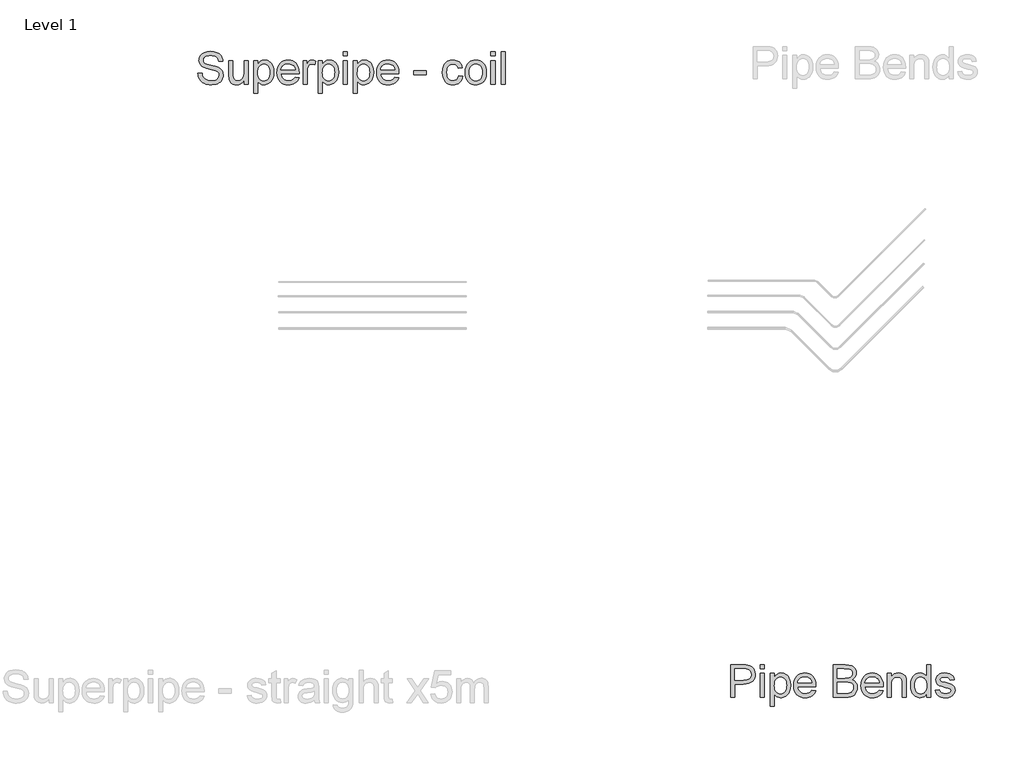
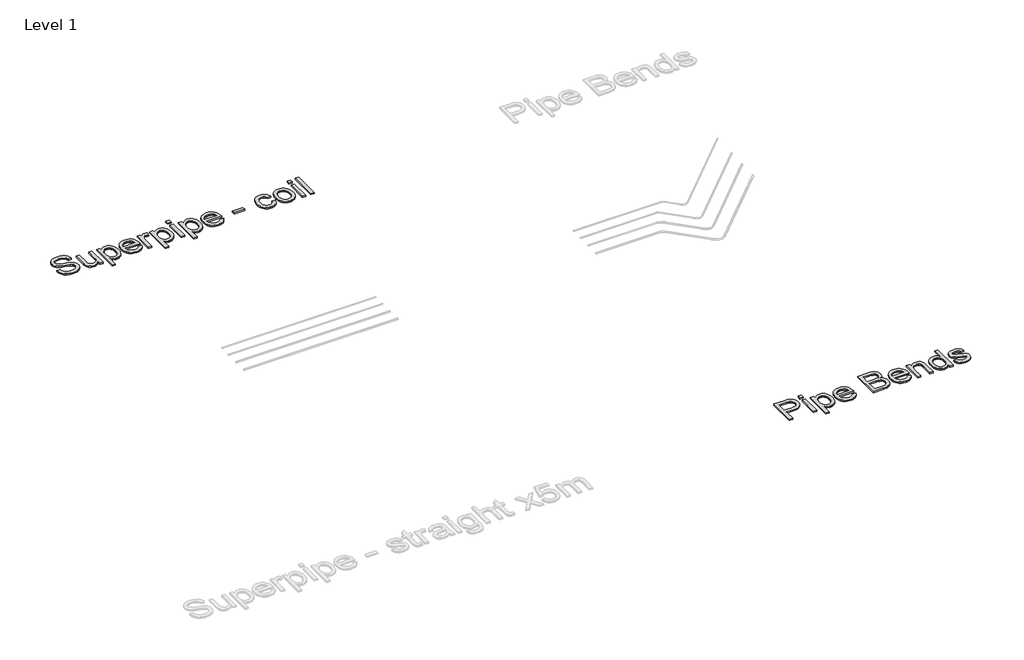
# One storey, part 9 of 57: 2 proxies.
"""IFC4 building model written with IfcOpenShell, lengths in millimetres."""

from ifc_helpers import new_model, si_unit, frame, origin, place, context, project, spatial, polyline, outline, extrude, element, save

model = new_model("IFC4")

# Units and contexts
model_context = context("Model", 3, world=origin())
ifc_project = project(units=[si_unit("LENGTHUNIT", "METRE", prefix="MILLI")], contexts=[model_context])

# Site, building, storey
site = spatial("IfcSite", under=ifc_project)
building = spatial("IfcBuilding", under=site)
storey = spatial("IfcBuildingStorey", under=building, Name="Level 1", Elevation=27.3876384)

# Proxies
placement = place(None, origin())
element("IfcBuildingElementProxy", 1, Name="600mm Arial", ObjectType="600mm Arial", at=placement, inside=storey, context=model_context, shape_type="SweptSolid", body=[
    extrude(outline(polyline([(-5305.3161942, 3428.1412239), (-5305.3161942, 4030.8790848), (-5081.9382467, 4030.8790848), (-5029.9197326, 4029.444345), (-4991.8807343, 4025.1401257), (-4951.7264145, 4014.4163655), (-4918.6722172, 3996.9603648), (-4892.0559549, 3971.9811774), (-4871.2154399, 3938.6878568), (-4857.7509588, 3899.4164538), (-4853.2627985, 3856.5030191), (-4856.2932264, 3819.5032874), (-4865.3845102, 3785.4650058), (-4880.5366499, 3754.3881743), (-4901.7496455, 3726.2727928), (-4930.8721039, 3702.9674684), (-4969.7526323, 3686.3208081), (-5018.3912306, 3676.3328119), (-5076.7878988, 3673.0034799), (-5229.9739616, 3673.0034799), (-5229.9739616, 3428.1412239), (-5305.3161942, 3428.1412239)]), holes=[polyline([(-5229.9739616, 3748.3457125), (-5072.3733148, 3748.3457125), (-5036.1369383, 3750.0747579), (-5005.5659445, 3755.261894), (-4980.6603334, 3763.9071209), (-4961.4201051, 3776.0104385), (-4947.0635102, 3791.2499502), (-4936.8087996, 3809.3037591), (-4930.6559732, 3830.1718653), (-4928.6050311, 3853.8542687), (-4933.4426794, 3887.6994123), (-4947.9556241, 3916.2470551), (-4970.3412435, 3937.7313636), (-4998.7969158, 3950.3865042), (-5027.8595934, 3954.2492652), (-5074.1391484, 3955.5368522), (-5229.9739616, 3955.5368522), (-5229.9739616, 3748.3457125)])]), frame((0.0, 0.0, 27.3876384), z_axis=(0.0, 0.0, 1.0), x_axis=(1.0, 0.0, 0.0)), (0.0, 0.0, 1.0), 30.0),
    extrude(outline(polyline([(-4759.0850077, 3428.1412239), (-4759.0850077, 3870.7768405), (-4683.7427751, 3870.7768405), (-4683.7427751, 3428.1412239), (-4759.0850077, 3428.1412239)])), frame((0.0, 0.0, 27.3876384), z_axis=(0.0, 0.0, 1.0), x_axis=(1.0, 0.0, 0.0)), (0.0, 0.0, 1.0), 30.0),
    extrude(outline(polyline([(-4759.0850077, 3955.5368522), (-4759.0850077, 4030.8790848), (-4683.7427751, 4030.8790848), (-4683.7427751, 3955.5368522), (-4759.0850077, 3955.5368522)])), frame((0.0, 0.0, 27.3876384), z_axis=(0.0, 0.0, 1.0), x_axis=(1.0, 0.0, 0.0)), (0.0, 0.0, 1.0), 30.0),
    extrude(outline(polyline([(-4570.7294262, 3258.6212005), (-4570.7294262, 3870.7768405), (-4495.3871936, 3870.7768405), (-4495.3871936, 3796.9061358), (-4470.8126763, 3833.3448475), (-4443.2951031, 3859.3724986), (-4411.2157931, 3874.9890893), (-4372.9560656, 3880.1946196), (-4346.6800941, 3878.3736037), (-4322.0044093, 3872.9105561), (-4298.9290111, 3863.8054767), (-4277.4538997, 3851.0583655), (-4258.0481244, 3835.0003164), (-4241.1807349, 3815.9624232), (-4226.8517312, 3793.9446858), (-4215.0611133, 3768.9471042), (-4199.2789757, 3713.4337111), (-4194.0182631, 3652.8435465), (-4199.9595574, 3588.4090151), (-4207.3861751, 3558.7439307), (-4217.78344, 3530.7803005), (-4231.0087978, 3505.2492901), (-4246.9196941, 3482.8820648), (-4265.5161289, 3463.6786246), (-4286.7981023, 3447.6389696), (-4309.7217492, 3434.9884275), (-4333.2432042, 3425.952326), (-4357.3624675, 3420.5306651), (-4382.0795391, 3418.7234448), (-4416.7156289, 3423.561093), (-4447.6361106, 3438.0740378), (-4474.1052202, 3459.9814106), (-4495.3871936, 3487.0023431), (-4495.3871936, 3258.6212005), (-4570.7294262, 3258.6212005)]), holes=[polyline([(-4495.3871936, 3645.927365), (-4493.350047, 3609.6174121), (-4487.2386074, 3578.3842307), (-4477.0528747, 3552.2278209), (-4462.7928488, 3531.1481825), (-4445.6265552, 3514.9245865), (-4426.7220192, 3503.3363037), (-4406.0792407, 3496.383334), (-4383.6982199, 3494.0656774), (-4360.9953022, 3496.4661074), (-4339.9754447, 3503.6673975), (-4320.6386474, 3515.6695476), (-4302.9849101, 3532.4725577), (-4288.2742288, 3554.3155512), (-4277.7665993, 3581.4376513), (-4271.4620217, 3613.838858), (-4269.3604958, 3651.5191714), (-4271.4114379, 3687.5164246), (-4277.5642643, 3718.6944237), (-4287.8189749, 3745.0531686), (-4302.1755697, 3766.5926594), (-4319.3832501, 3783.3312902), (-4338.1912171, 3795.2874551), (-4358.5994707, 3802.461154), (-4380.6080111, 3804.8523869), (-4402.5475736, 3802.3094027), (-4423.190352, 3794.6804498), (-4442.5363465, 3781.9655283), (-4460.5855569, 3764.1646383), (-4475.8112729, 3741.5169029), (-4486.6867844, 3714.2614456), (-4493.2120913, 3682.3982663), (-4495.3871936, 3645.927365)])]), frame((0.0, 0.0, 27.3876384), z_axis=(0.0, 0.0, 1.0), x_axis=(1.0, 0.0, 0.0)), (0.0, 0.0, 1.0), 30.0),
    extrude(outline(polyline([(-3799.3544587, 3559.990131), (-3725.4837541, 3550.5723519), (-3736.809921, 3520.9854424), (-3752.1000164, 3494.911806), (-3771.3540404, 3472.3514427), (-3794.5719928, 3453.3043524), (-3821.5147504, 3438.1752053), (-3851.9431899, 3427.3686717), (-3885.8573114, 3420.8847515), (-3923.2571147, 3418.7234448), (-3970.0057192, 3422.4528485), (-4011.6591581, 3433.6410597), (-4048.2174314, 3452.2880783), (-4079.680539, 3478.3939044), (-4104.9816233, 3511.231971), (-4123.0538263, 3550.0757112), (-4133.8971481, 3594.9251249), (-4137.5115887, 3645.7802122), (-4133.8603599, 3698.3597464), (-4122.9066735, 3744.7036807), (-4104.6505295, 3784.8120153), (-4079.0919279, 3818.68475), (-4047.7115937, 3845.5953179), (-4011.9902519, 3864.8171522), (-3971.9279027, 3876.3502527), (-3927.5245458, 3880.1946196), (-3884.5513303, 3876.3594498), (-3845.689196, 3864.8539404), (-3810.938143, 3845.6780914), (-3780.2981714, 3818.8319028), (-3755.2867942, 3785.0327445), (-3737.4215248, 3744.9979863), (-3726.7023632, 3698.7276284), (-3723.1293093, 3646.2216706), (-3723.5707677, 3625.9145845), (-4062.1693561, 3625.9145845), (-4057.8053559, 3595.8494284), (-4049.1279393, 3569.5182746), (-4036.1371064, 3546.9211231), (-4018.832857, 3528.0579738), (-3998.1716845, 3513.1863441), (-3975.1100819, 3502.5637515), (-3949.6480493, 3496.1901959), (-3921.7855867, 3494.0656774), (-3881.6864492, 3498.0020148), (-3847.9148821, 3509.8110268), (-3820.4708852, 3530.2284775), (-3799.3544587, 3559.990131)]), holes=[polyline([(-4062.1693561, 3701.2568171), (-3798.4715419, 3701.2568171), (-3808.6618732, 3741.061649), (-3817.4266617, 3756.7150279), (-3828.6378655, 3769.5357154), (-3849.184075, 3784.9867592), (-3872.5629758, 3796.0232191), (-3898.7745679, 3802.645095), (-3927.8188514, 3804.8523869), (-3954.3109536, 3803.0911519), (-3978.6049609, 3797.8074467), (-4000.7008732, 3789.0012715), (-4020.5986906, 3776.6726261), (-4037.2959347, 3761.3917277), (-4049.7901269, 3743.7287934), (-4058.0812674, 3723.6838232), (-4062.1693561, 3701.2568171)])]), frame((0.0, 0.0, 27.3876384), z_axis=(0.0, 0.0, 1.0), x_axis=(1.0, 0.0, 0.0)), (0.0, 0.0, 1.0), 30.0),
    extrude(outline(polyline([(-3402.9248207, 3428.1412239), (-3402.9248207, 4030.8790848), (-3172.9249973, 4030.8790848), (-3109.6676883, 4026.4461067), (-3060.2795304, 4013.1471726), (-3040.2023705, 4003.0901986), (-3022.4244731, 3990.6511886), (-3006.9458382, 3975.8301427), (-2993.7664657, 3958.6270609), (-2975.7218538, 3920.9559446), (-2969.7069832, 3881.5189947), (-2974.7653606, 3845.2274359), (-2989.9404929, 3811.1063809), (-3015.3427447, 3781.252757), (-3051.0824805, 3757.7634916), (-3028.3427747, 3748.069801), (-3008.389775, 3735.4698427), (-2991.2234814, 3719.9636166), (-2976.8438939, 3701.5511227), (-2965.4809388, 3680.7933811), (-2957.3645423, 3658.2514119), (-2952.4947043, 3633.9252149), (-2950.871425, 3607.8147903), (-2955.3044031, 3565.7842724), (-2968.6033372, 3526.807175), (-2988.4505709, 3493.6610072), (-3012.5284474, 3469.1232781), (-3042.0141894, 3451.3545778), (-3078.085019, 3438.5154961), (-3121.9181587, 3430.7347919), (-3174.6908309, 3428.1412239), (-3402.9248207, 3428.1412239)]), holes=[polyline([(-3327.5825881, 3503.4834565), (-3173.0721501, 3503.4834565), (-3117.1540869, 3506.4265125), (-3091.2000121, 3512.9564179), (-3069.8444623, 3522.8340494), (-3052.4804321, 3536.9791122), (-3038.5009163, 3556.311311), (-3029.2854723, 3579.9661233), (-3026.2136577, 3607.0790263), (-3029.8189012, 3638.5697251), (-3040.6346319, 3665.64584), (-3059.5253723, 3686.8174488), (-3087.3556453, 3700.5946295), (-3126.774201, 3708.1546045), (-3180.42979, 3710.6745962), (-3327.5825881, 3710.6745962), (-3327.5825881, 3503.4834565)]), polyline([(-3327.5825881, 3786.0168288), (-3189.9947219, 3786.0168288), (-3141.8757569, 3787.6355096), (-3109.6492942, 3792.4915519), (-3081.5247156, 3803.6567705), (-3061.3096, 3820.3770071), (-3049.1143119, 3842.3947446), (-3045.0492158, 3869.4524653), (-3048.8384004, 3895.7192398), (-3060.205954, 3918.6014999), (-3078.636842, 3936.4621707), (-3103.6160294, 3947.6641775), (-3141.9493333, 3953.5686835), (-3200.4425706, 3955.5368522), (-3327.5825881, 3955.5368522), (-3327.5825881, 3786.0168288)])]), frame((0.0, 0.0, 27.3876384), z_axis=(0.0, 0.0, 1.0), x_axis=(1.0, 0.0, 0.0)), (0.0, 0.0, 1.0), 30.0),
    extrude(outline(polyline([(-2546.7898415, 3559.990131), (-2472.9191369, 3550.5723519), (-2484.2453038, 3520.9854424), (-2499.5353993, 3494.911806), (-2518.7894232, 3472.3514427), (-2542.0073756, 3453.3043524), (-2568.9501332, 3438.1752053), (-2599.3785728, 3427.3686717), (-2633.2926942, 3420.8847515), (-2670.6924975, 3418.7234448), (-2717.4411021, 3422.4528485), (-2759.094541, 3433.6410597), (-2795.6528142, 3452.2880783), (-2827.1159219, 3478.3939044), (-2852.4170061, 3511.231971), (-2870.4892091, 3550.0757112), (-2881.3325309, 3594.9251249), (-2884.9469715, 3645.7802122), (-2881.2957427, 3698.3597464), (-2870.3420563, 3744.7036807), (-2852.0859123, 3784.8120153), (-2826.5273107, 3818.68475), (-2795.1469765, 3845.5953179), (-2759.4256348, 3864.8171522), (-2719.3632855, 3876.3502527), (-2674.9599287, 3880.1946196), (-2631.9867131, 3876.3594498), (-2593.1245788, 3864.8539404), (-2558.3735259, 3845.6780914), (-2527.7335542, 3818.8319028), (-2502.722177, 3785.0327445), (-2484.8569077, 3744.9979863), (-2474.137746, 3698.7276284), (-2470.5646921, 3646.2216706), (-2471.0061505, 3625.9145845), (-2809.6047389, 3625.9145845), (-2805.2407387, 3595.8494284), (-2796.5633222, 3569.5182746), (-2783.5724892, 3546.9211231), (-2766.2682399, 3528.0579738), (-2745.6070673, 3513.1863441), (-2722.5454647, 3502.5637515), (-2697.0834321, 3496.1901959), (-2669.2209695, 3494.0656774), (-2629.1218321, 3498.0020148), (-2595.3502649, 3509.8110268), (-2567.9062681, 3530.2284775), (-2546.7898415, 3559.990131)]), holes=[polyline([(-2809.6047389, 3701.2568171), (-2545.9069248, 3701.2568171), (-2556.097256, 3741.061649), (-2564.8620446, 3756.7150279), (-2576.0732484, 3769.5357154), (-2596.6194578, 3784.9867592), (-2619.9983586, 3796.0232191), (-2646.2099507, 3802.645095), (-2675.2542343, 3804.8523869), (-2701.7463364, 3803.0911519), (-2726.0403437, 3797.8074467), (-2748.136256, 3789.0012715), (-2768.0340734, 3776.6726261), (-2784.7313175, 3761.3917277), (-2797.2255098, 3743.7287934), (-2805.5166502, 3723.6838232), (-2809.6047389, 3701.2568171)])]), frame((0.0, 0.0, 27.3876384), z_axis=(0.0, 0.0, 1.0), x_axis=(1.0, 0.0, 0.0)), (0.0, 0.0, 1.0), 30.0),
    extrude(outline(polyline([(-2395.2224595, 3428.1412239), (-2395.2224595, 3870.7768405), (-2319.8802269, 3870.7768405), (-2319.8802269, 3808.9726653), (-2293.705423, 3840.1322703), (-2262.2699065, 3862.389131), (-2225.5736775, 3875.7432474), (-2183.6167359, 3880.1946196), (-2146.4790485, 3876.6077701), (-2112.468358, 3865.8472217), (-2084.1046562, 3849.2557438), (-2063.9079347, 3828.1761054), (-2050.2043304, 3802.6634891), (-2041.3199802, 3772.773077), (-2037.3468546, 3699.9324419), (-2037.3468546, 3428.1412239), (-2112.6890872, 3428.1412239), (-2112.6890872, 3689.7788989), (-2114.859591, 3728.7376021), (-2121.3711023, 3756.4391164), (-2133.3824495, 3776.28635), (-2152.0524607, 3791.6822115), (-2175.9831845, 3801.5598431), (-2203.7766692, 3804.8523869), (-2226.6543308, 3803.0037799), (-2247.9041146, 3797.4579588), (-2267.5260205, 3788.2149237), (-2285.5200486, 3775.2746745), (-2300.5526266, 3757.1656833), (-2311.2901823, 3732.4164221), (-2317.7327158, 3701.0268909), (-2319.8802269, 3662.9970896), (-2319.8802269, 3428.1412239), (-2395.2224595, 3428.1412239)])), frame((0.0, 0.0, 27.3876384), z_axis=(0.0, 0.0, 1.0), x_axis=(1.0, 0.0, 0.0)), (0.0, 0.0, 1.0), 30.0),
    extrude(outline(polyline([(-1660.6356916, 3428.1412239), (-1660.6356916, 3499.2160254), (-1683.1776608, 3464.0005214), (-1710.4837019, 3438.8465899), (-1742.5538148, 3423.7542311), (-1779.3879996, 3418.7234448), (-1804.2568225, 3420.5444607), (-1828.0955758, 3426.0075083), (-1850.9042595, 3435.1125877), (-1872.6828736, 3447.8596988), (-1892.7508364, 3463.8671641), (-1910.4275663, 3482.7533061), (-1925.7130632, 3504.5181246), (-1938.6073271, 3529.1616198), (-1948.8436436, 3556.214742), (-1956.1552983, 3585.2084417), (-1962.004622, 3649.0175738), (-1956.6151508, 3712.0357596), (-1940.4467371, 3768.9471042), (-1928.3250254, 3794.3033707), (-1913.517775, 3816.5142462), (-1896.0249862, 3835.5797306), (-1875.8466587, 3851.4998239), (-1853.6955641, 3864.053797), (-1830.2844736, 3873.0209206), (-1805.6133873, 3878.4011948), (-1779.6823052, 3880.1946196), (-1742.8205293, 3875.0626657), (-1710.2261845, 3859.6668042), (-1682.5982467, 3836.0671742), (-1660.6356916, 3806.3239149), (-1660.6356916, 4030.8790848), (-1585.2934589, 4030.8790848), (-1585.2934589, 3428.1412239), (-1660.6356916, 3428.1412239)]), holes=[polyline([(-1886.6623894, 3649.3118794), (-1884.5378709, 3612.7765987), (-1878.1643153, 3581.1617398), (-1867.5417227, 3554.4673025), (-1852.670093, 3532.6932869), (-1834.9105897, 3515.7937078), (-1815.6243761, 3503.7225798), (-1794.8114523, 3496.479903), (-1772.4718181, 3494.0656774), (-1750.0264179, 3496.3695384), (-1729.3376542, 3503.2811214), (-1710.405527, 3514.8004264), (-1693.2300363, 3530.9274533), (-1678.9700105, 3551.790961), (-1668.7842778, 3577.519708), (-1662.6728381, 3608.1136944), (-1660.6356916, 3643.5729203), (-1662.7096263, 3682.4488501), (-1668.9314306, 3715.7881559), (-1679.3011043, 3743.5908377), (-1693.8186475, 3765.8568955), (-1711.3712172, 3782.917423), (-1730.8459703, 3795.1035141), (-1752.2429069, 3802.4151687), (-1775.5620269, 3804.8523869), (-1798.3431194, 3802.5117377), (-1819.1560433, 3795.4897902), (-1838.0007985, 3783.7865442), (-1854.877385, 3767.4019998), (-1868.7833244, 3745.9774721), (-1878.7161383, 3719.1542762), (-1884.6758266, 3686.9324119), (-1886.6623894, 3649.3118794)])]), frame((0.0, 0.0, 27.3876384), z_axis=(0.0, 0.0, 1.0), x_axis=(1.0, 0.0, 0.0)), (0.0, 0.0, 1.0), 30.0),
    extrude(outline(polyline([(-1500.5334473, 3559.990131), (-1425.1912146, 3569.40791), (-1420.638675, 3552.2278209), (-1413.3086262, 3537.1814473), (-1403.2010684, 3524.2687892), (-1390.3160015, 3513.4898468), (-1374.6166374, 3504.9917727), (-1356.0661878, 3498.9217198), (-1310.4120322, 3494.0656774), (-1265.3096995, 3498.5170496), (-1247.7801225, 3504.0812647), (-1233.5982716, 3511.871166), (-1214.8362898, 3531.2217589), (-1210.1457944, 3542.0558837), (-1208.5822959, 3553.6625606), (-1210.1549914, 3563.8344978), (-1214.873078, 3572.8660008), (-1233.7454244, 3587.5077042), (-1261.9619734, 3597.0726361), (-1311.2949489, 3608.9920127), (-1380.0520938, 3628.8760346), (-1424.7497563, 3645.8537886), (-1453.462946, 3664.3766471), (-1474.2666728, 3688.8959821), (-1486.9034193, 3717.8482951), (-1491.1156682, 3749.6700877), (-1487.7311538, 3778.861524), (-1477.5776108, 3805.8088801), (-1461.574744, 3829.4452983), (-1440.6422584, 3848.7039208), (-1419.8385316, 3860.8256325), (-1392.7440227, 3870.9975697), (-1361.4188708, 3877.8953571), (-1327.9232151, 3880.1946196), (-1278.8845452, 3876.4974055), (-1236.2470219, 3865.4057633), (-1201.96042, 3848.004945), (-1177.9745139, 3825.3802023), (-1162.0820117, 3795.8576722), (-1152.0756214, 3757.7634916), (-1227.417854, 3748.3457125), (-1236.9276036, 3772.0557071), (-1255.7447677, 3789.9163779), (-1284.0532872, 3801.1183847), (-1322.0371032, 3804.8523869), (-1365.3000258, 3801.2839316), (-1394.1419743, 3790.5785655), (-1410.3655702, 3775.1275217), (-1415.7734356, 3757.3220332), (-1413.5293554, 3745.7337503), (-1406.7971149, 3735.3962663), (-1395.2824084, 3726.1624282), (-1378.6909305, 3718.7680001), (-1313.7965465, 3702.7283451), (-1203.2112188, 3667.2645207), (-1174.0013883, 3650.3051608), (-1151.8548922, 3627.0918069), (-1137.8937705, 3597.5508827), (-1133.2400633, 3561.6088117), (-1138.7031109, 3524.4527302), (-1155.0922538, 3489.5039407), (-1181.7820925, 3459.503164), (-1218.1472278, 3437.191121), (-1262.072338, 3423.3403638), (-1311.4421017, 3418.7234448), (-1351.9918947, 3420.9491309), (-1387.4097337, 3427.6261891), (-1417.695619, 3438.7546194), (-1442.8495504, 3454.3344219), (-1463.3957598, 3474.2920202), (-1479.8584791, 3498.5538378), (-1492.2377083, 3527.1198747), (-1500.5334473, 3559.990131)])), frame((0.0, 0.0, 27.3876384), z_axis=(0.0, 0.0, 1.0), x_axis=(1.0, 0.0, 0.0)), (0.0, 0.0, 1.0), 30.0),
])
element("IfcBuildingElementProxy", 2, Name="600mm Arial", ObjectType="600mm Arial", at=placement, inside=storey, context=model_context, shape_type="SweptSolid", body=[
    extrude(outline(polyline([(-15222.1955142, 15041.5710619), (-15146.8532816, 15041.5710619), (-15138.2080547, 14999.7612731), (-15122.5730699, 14966.1552529), (-15098.1824936, 14939.4838082), (-15063.2704923, 14918.4777463), (-15020.5961809, 14904.8477184), (-14972.9186743, 14900.3043757), (-14930.9433386, 14903.7440724), (-14894.1919273, 14914.0631623), (-14864.4118798, 14930.3971229), (-14843.3506356, 14951.8814314), (-14830.8242536, 14976.5479192), (-14826.648793, 15002.4284176), (-14829.77579, 15027.6467284), (-14839.1567808, 15049.4437366), (-14858.2130682, 15068.0401714), (-14890.3659546, 15083.6567621), (-15000.0683655, 15112.4251341), (-15072.0812661, 15131.4630274), (-15118.158486, 15149.5812157), (-15155.6640554, 15174.9282851), (-15182.2435295, 15205.6464317), (-15198.0808494, 15241.0734679), (-15203.3599561, 15280.5472059), (-15201.7274797, 15302.9834091), (-15196.8300506, 15324.6746513), (-15188.6676689, 15345.6209324), (-15177.2403344, 15365.8222524), (-15162.6768059, 15384.4554755), (-15145.1058421, 15400.6974656), (-15124.527443, 15414.5482227), (-15100.9416086, 15426.0077468), (-15047.9298131, 15441.4036083), (-14989.2526349, 15446.5355622), (-14925.6826261, 15441.164485), (-14870.0588684, 15425.0512536), (-14845.7234744, 15413.0491036), (-14824.3679246, 15398.5269618), (-14805.992219, 15381.4848284), (-14790.5963575, 15361.9227033), (-14778.2999018, 15340.4108036), (-14769.2224135, 15317.5193465), (-14763.3638928, 15293.2483318), (-14760.7243395, 15267.5977597), (-14836.0665721, 15267.5977597), (-14841.1065554, 15291.6388481), (-14849.8989351, 15312.5529395), (-14862.4437111, 15330.340034), (-14878.7408835, 15345.0001315), (-14899.0939549, 15356.4596556), (-14923.8064279, 15364.64503), (-14952.8783026, 15369.5562547), (-14986.3095789, 15371.1933296), (-15020.807713, 15369.5746488), (-15050.2842579, 15364.7186064), (-15074.7392135, 15356.6252025), (-15094.1725799, 15345.2944371), (-15108.9798302, 15331.6736062), (-15119.5564376, 15316.7100061), (-15125.902402, 15300.4036366), (-15128.0177234, 15282.7544979), (-15126.5186043, 15267.5701686), (-15122.0212469, 15253.8021849), (-15114.5256513, 15241.4505469), (-15104.0318174, 15230.5152546), (-15087.5139158, 15220.1593764), (-15061.5046587, 15209.6931337), (-14981.0120782, 15188.4295543), (-14897.9443237, 15168.2328328), (-14847.6916431, 15150.6112852), (-14804.7414202, 15123.277653), (-14788.1361466, 15107.2104069), (-14774.7774317, 15089.542874), (-14764.5089255, 15070.367025), (-14757.1742782, 15049.7748304), (-14751.3065604, 15004.341404), (-14752.994219, 14980.7739636), (-14758.057195, 14957.8963021), (-14766.4954883, 14935.7084192), (-14778.3090988, 14914.2103151), (-14793.2910931, 14894.2343228), (-14811.2345374, 14876.6127752), (-14832.1394318, 14861.3456724), (-14856.0057762, 14848.4330144), (-14882.1391934, 14838.1645082), (-14909.8453062, 14830.8298609), (-14969.9756183, 14824.9621431), (-15008.5158558, 14826.5440357), (-15043.7911406, 14831.2897134), (-15075.8014728, 14839.1991763), (-15104.5468522, 14850.2724244), (-15130.2020228, 14864.5278517), (-15152.9417286, 14881.9838524), (-15172.7659696, 14902.6404264), (-15189.6747458, 14926.4975738), (-15203.2955767, 14952.7827423), (-15213.2559817, 14980.7233799), (-15219.5559609, 15010.3194864), (-15222.1955142, 15041.5710619)])), frame((0.0, 0.0, 27.3876384), z_axis=(0.0, 0.0, 1.0), x_axis=(1.0, 0.0, 0.0)), (0.0, 0.0, 1.0), 30.0),
    extrude(outline(polyline([(-14365.1776182, 14834.3799222), (-14365.1776182, 14910.4579188), (-14392.4376741, 14873.0535169), (-14424.1858903, 14846.336087), (-14460.4222668, 14830.3056291), (-14501.1468037, 14824.9621431), (-14537.8430327, 14828.7145395), (-14572.0008759, 14839.9717285), (-14600.6588834, 14856.8943003), (-14620.8556049, 14877.6428448), (-14634.4488446, 14902.8427615), (-14643.2964066, 14933.1194497), (-14647.7109905, 15003.1641816), (-14647.7109905, 15277.0155388), (-14572.3687579, 15277.0155388), (-14572.3687579, 15038.6280059), (-14571.2283237, 14990.9504993), (-14567.8070212, 14961.8142453), (-14556.8257436, 14936.1912644), (-14538.0085796, 14916.7119127), (-14512.6063278, 14904.40626), (-14481.8697871, 14900.3043757), (-14449.3674128, 14904.4982305), (-14418.9619659, 14917.0797947), (-14393.890808, 14936.8902401), (-14377.3913005, 14962.7707385), (-14368.2310388, 14998.2161687), (-14365.1776182, 15046.7214098), (-14365.1776182, 15277.0155388), (-14289.8353856, 15277.0155388), (-14289.8353856, 14834.3799222), (-14365.1776182, 14834.3799222)])), frame((0.0, 0.0, 27.3876384), z_axis=(0.0, 0.0, 1.0), x_axis=(1.0, 0.0, 0.0)), (0.0, 0.0, 1.0), 30.0),
    extrude(outline(polyline([(-14186.2398158, 14664.8598988), (-14186.2398158, 15277.0155388), (-14110.8975832, 15277.0155388), (-14110.8975832, 15203.1448342), (-14086.3230659, 15239.5835458), (-14058.8054927, 15265.6111969), (-14026.7261827, 15281.2277876), (-13988.4664552, 15286.4333179), (-13962.1904837, 15284.612302), (-13937.5147989, 15279.1492544), (-13914.4394007, 15270.044175), (-13892.9642892, 15257.2970638), (-13873.558514, 15241.2390148), (-13856.6911245, 15222.2011215), (-13842.3621208, 15200.1833841), (-13830.5715029, 15175.1858025), (-13814.7893653, 15119.6724094), (-13809.5286527, 15059.0822448), (-13815.469947, 14994.6477134), (-13822.8965647, 14964.982629), (-13833.2938296, 14937.0189988), (-13846.5191873, 14911.4879884), (-13862.4300836, 14889.1207631), (-13881.0265185, 14869.9173229), (-13902.3084919, 14853.8776679), (-13925.2321387, 14841.2271258), (-13948.7535938, 14832.1910243), (-13972.8728571, 14826.7693634), (-13997.5899287, 14824.9621431), (-14032.2260185, 14829.7997914), (-14063.1465002, 14844.3127361), (-14089.6156098, 14866.2201089), (-14110.8975832, 14893.2410414), (-14110.8975832, 14664.8598988), (-14186.2398158, 14664.8598988)]), holes=[polyline([(-14110.8975832, 15052.1660633), (-14108.8604366, 15015.8561104), (-14102.748997, 14984.622929), (-14092.5632642, 14958.4665192), (-14078.3032384, 14937.3868808), (-14061.1369448, 14921.1632849), (-14042.2324088, 14909.575002), (-14021.5896303, 14902.6220323), (-13999.2086094, 14900.3043757), (-13976.5056918, 14902.7048057), (-13955.4858343, 14909.9060958), (-13936.1490369, 14921.9082459), (-13918.4952997, 14938.711256), (-13903.7846184, 14960.5542495), (-13893.2769889, 14987.6763496), (-13886.9724112, 15020.0775563), (-13884.8708853, 15057.7578697), (-13886.9218275, 15093.7551229), (-13893.0746538, 15124.933122), (-13903.3293645, 15151.2918669), (-13917.6859593, 15172.8313578), (-13934.8936396, 15189.5699885), (-13953.7016066, 15201.5261534), (-13974.1098603, 15208.6998523), (-13996.1184007, 15211.0910853), (-14018.0579632, 15208.548101), (-14038.7007416, 15200.9191481), (-14058.046736, 15188.2042266), (-14076.0959464, 15170.4033366), (-14091.3216625, 15147.7556013), (-14102.197174, 15120.5001439), (-14108.7224809, 15088.6369646), (-14110.8975832, 15052.1660633)])]), frame((0.0, 0.0, 27.3876384), z_axis=(0.0, 0.0, 1.0), x_axis=(1.0, 0.0, 0.0)), (0.0, 0.0, 1.0), 30.0),
    extrude(outline(polyline([(-13414.8648483, 14966.2288293), (-13340.9941437, 14956.8110502), (-13352.3203106, 14927.2241407), (-13367.610406, 14901.1505043), (-13386.8644299, 14878.590141), (-13410.0823824, 14859.5430507), (-13437.02514, 14844.4139036), (-13467.4535795, 14833.60737), (-13501.3677009, 14827.1234498), (-13538.7675043, 14824.9621431), (-13585.5161088, 14828.6915468), (-13627.1695477, 14839.879758), (-13663.727821, 14858.5267766), (-13695.1909286, 14884.6326027), (-13720.4920128, 14917.4706693), (-13738.5642159, 14956.3144095), (-13749.4075377, 15001.1638232), (-13753.0219783, 15052.0189105), (-13749.3707495, 15104.5984447), (-13738.4170631, 15150.942379), (-13720.1609191, 15191.0507136), (-13694.6023174, 15224.9234483), (-13663.2219832, 15251.8340162), (-13627.5006415, 15271.0558505), (-13587.4382922, 15282.588951), (-13543.0349354, 15286.4333179), (-13500.0617199, 15282.5981481), (-13461.1995856, 15271.0926387), (-13426.4485326, 15251.9167897), (-13395.808561, 15225.0706011), (-13370.7971838, 15191.2714428), (-13352.9319144, 15151.2366846), (-13342.2127528, 15104.9663267), (-13338.6396989, 15052.4603689), (-13339.0811573, 15032.1532828), (-13677.6797457, 15032.1532828), (-13673.3157455, 15002.0881267), (-13664.6383289, 14975.7569729), (-13651.647496, 14953.1598214), (-13634.3432466, 14934.2966721), (-13613.6820741, 14919.4250424), (-13590.6204715, 14908.8024498), (-13565.1584389, 14902.4288942), (-13537.2959763, 14900.3043757), (-13497.1968388, 14904.2407131), (-13463.4252717, 14916.0497251), (-13435.9812748, 14936.4671759), (-13414.8648483, 14966.2288293)]), holes=[polyline([(-13677.6797457, 15107.4955154), (-13413.9819315, 15107.4955154), (-13424.1722628, 15147.3003473), (-13432.9370513, 15162.9537262), (-13444.1482551, 15175.7744137), (-13464.6944646, 15191.2254575), (-13488.0733653, 15202.2619174), (-13514.2849575, 15208.8837933), (-13543.329241, 15211.0910853), (-13569.8213432, 15209.3298502), (-13594.1153505, 15204.046145), (-13616.2112628, 15195.2399698), (-13636.1090802, 15182.9113244), (-13652.8063243, 15167.630426), (-13665.3005165, 15149.9674918), (-13673.591657, 15129.9225215), (-13677.6797457, 15107.4955154)])]), frame((0.0, 0.0, 27.3876384), z_axis=(0.0, 0.0, 1.0), x_axis=(1.0, 0.0, 0.0)), (0.0, 0.0, 1.0), 30.0),
    extrude(outline(polyline([(-13263.2974663, 14834.3799222), (-13263.2974663, 15277.0155388), (-13197.3730128, 15277.0155388), (-13197.3730128, 15211.5325436), (-13173.0192247, 15249.4979655), (-13150.578423, 15271.8651909), (-13128.0640449, 15282.7912861), (-13103.4895276, 15286.4333179), (-13065.9655641, 15280.6207823), (-13027.8529894, 15263.1831758), (-13053.0161178, 15195.6400415), (-13079.5036215, 15207.2283243), (-13105.9911252, 15211.0910853), (-13128.4871092, 15207.3754771), (-13148.5918602, 15196.2286526), (-13164.8338503, 15178.4967405), (-13175.7415514, 15155.0258692), (-13184.9018131, 15112.9401689), (-13187.9552337, 15067.0284959), (-13187.9552337, 14834.3799222), (-13263.2974663, 14834.3799222)])), frame((0.0, 0.0, 27.3876384), z_axis=(0.0, 0.0, 1.0), x_axis=(1.0, 0.0, 0.0)), (0.0, 0.0, 1.0), 30.0),
    extrude(outline(polyline([(-12980.764094, 14664.8598988), (-12980.764094, 15277.0155388), (-12905.4218614, 15277.0155388), (-12905.4218614, 15203.1448342), (-12880.8473441, 15239.5835458), (-12853.3297709, 15265.6111969), (-12821.2504609, 15281.2277876), (-12782.9907334, 15286.4333179), (-12756.7147619, 15284.612302), (-12732.0390771, 15279.1492544), (-12708.9636789, 15270.044175), (-12687.4885674, 15257.2970638), (-12668.0827922, 15241.2390148), (-12651.2154027, 15222.2011215), (-12636.886399, 15200.1833841), (-12625.0957811, 15175.1858025), (-12609.3136435, 15119.6724094), (-12604.0529309, 15059.0822448), (-12609.9942252, 14994.6477134), (-12617.4208429, 14964.982629), (-12627.8181078, 14937.0189988), (-12641.0434656, 14911.4879884), (-12656.9543618, 14889.1207631), (-12675.5507967, 14869.9173229), (-12696.8327701, 14853.8776679), (-12719.7564169, 14841.2271258), (-12743.277872, 14832.1910243), (-12767.3971353, 14826.7693634), (-12792.1142069, 14824.9621431), (-12826.7502967, 14829.7997914), (-12857.6707784, 14844.3127361), (-12884.139888, 14866.2201089), (-12905.4218614, 14893.2410414), (-12905.4218614, 14664.8598988), (-12980.764094, 14664.8598988)]), holes=[polyline([(-12905.4218614, 15052.1660633), (-12903.3847148, 15015.8561104), (-12897.2732752, 14984.622929), (-12887.0875425, 14958.4665192), (-12872.8275166, 14937.3868808), (-12855.661223, 14921.1632849), (-12836.756687, 14909.575002), (-12816.1139085, 14902.6220323), (-12793.7328876, 14900.3043757), (-12771.02997, 14902.7048057), (-12750.0101125, 14909.9060958), (-12730.6733152, 14921.9082459), (-12713.0195779, 14938.711256), (-12698.3088966, 14960.5542495), (-12687.8012671, 14987.6763496), (-12681.4966894, 15020.0775563), (-12679.3951635, 15057.7578697), (-12681.4461057, 15093.7551229), (-12687.598932, 15124.933122), (-12697.8536427, 15151.2918669), (-12712.2102375, 15172.8313578), (-12729.4179178, 15189.5699885), (-12748.2258848, 15201.5261534), (-12768.6341385, 15208.6998523), (-12790.6426789, 15211.0910853), (-12812.5822414, 15208.548101), (-12833.2250198, 15200.9191481), (-12852.5710143, 15188.2042266), (-12870.6202246, 15170.4033366), (-12885.8459407, 15147.7556013), (-12896.7214522, 15120.5001439), (-12903.2467591, 15088.6369646), (-12905.4218614, 15052.1660633)])]), frame((0.0, 0.0, 27.3876384), z_axis=(0.0, 0.0, 1.0), x_axis=(1.0, 0.0, 0.0)), (0.0, 0.0, 1.0), 30.0),
    extrude(outline(polyline([(-12519.2929192, 15361.7755505), (-12519.2929192, 15437.1177831), (-12443.9506866, 15437.1177831), (-12443.9506866, 15361.7755505), (-12519.2929192, 15361.7755505)])), frame((0.0, 0.0, 27.3876384), z_axis=(0.0, 0.0, 1.0), x_axis=(1.0, 0.0, 0.0)), (0.0, 0.0, 1.0), 30.0),
    extrude(outline(polyline([(-12519.2929192, 14834.3799222), (-12519.2929192, 15277.0155388), (-12443.9506866, 15277.0155388), (-12443.9506866, 14834.3799222), (-12519.2929192, 14834.3799222)])), frame((0.0, 0.0, 27.3876384), z_axis=(0.0, 0.0, 1.0), x_axis=(1.0, 0.0, 0.0)), (0.0, 0.0, 1.0), 30.0),
    extrude(outline(polyline([(-12330.9373377, 14664.8598988), (-12330.9373377, 15277.0155388), (-12255.5951051, 15277.0155388), (-12255.5951051, 15203.1448342), (-12231.0205878, 15239.5835458), (-12203.5030146, 15265.6111969), (-12171.4237046, 15281.2277876), (-12133.1639771, 15286.4333179), (-12106.8880056, 15284.612302), (-12082.2123208, 15279.1492544), (-12059.1369226, 15270.044175), (-12037.6618112, 15257.2970638), (-12018.2560359, 15241.2390148), (-12001.3886464, 15222.2011215), (-11987.0596427, 15200.1833841), (-11975.2690248, 15175.1858025), (-11959.4868872, 15119.6724094), (-11954.2261747, 15059.0822448), (-11960.1674689, 14994.6477134), (-11967.5940867, 14964.982629), (-11977.9913515, 14937.0189988), (-11991.2167093, 14911.4879884), (-12007.1276056, 14889.1207631), (-12025.7240404, 14869.9173229), (-12047.0060138, 14853.8776679), (-12069.9296607, 14841.2271258), (-12093.4511157, 14832.1910243), (-12117.570379, 14826.7693634), (-12142.2874506, 14824.9621431), (-12176.9235404, 14829.7997914), (-12207.8440221, 14844.3127361), (-12234.3131317, 14866.2201089), (-12255.5951051, 14893.2410414), (-12255.5951051, 14664.8598988), (-12330.9373377, 14664.8598988)]), holes=[polyline([(-12255.5951051, 15052.1660633), (-12253.5579586, 15015.8561104), (-12247.4465189, 14984.622929), (-12237.2607862, 14958.4665192), (-12223.0007603, 14937.3868808), (-12205.8344667, 14921.1632849), (-12186.9299307, 14909.575002), (-12166.2871523, 14902.6220323), (-12143.9061314, 14900.3043757), (-12121.2032137, 14902.7048057), (-12100.1833562, 14909.9060958), (-12080.8465589, 14921.9082459), (-12063.1928216, 14938.711256), (-12048.4821403, 14960.5542495), (-12037.9745109, 14987.6763496), (-12031.6699332, 15020.0775563), (-12029.5684073, 15057.7578697), (-12031.6193494, 15093.7551229), (-12037.7721758, 15124.933122), (-12048.0268864, 15151.2918669), (-12062.3834812, 15172.8313578), (-12079.5911616, 15189.5699885), (-12098.3991286, 15201.5261534), (-12118.8073822, 15208.6998523), (-12140.8159226, 15211.0910853), (-12162.7554851, 15208.548101), (-12183.3982636, 15200.9191481), (-12202.744258, 15188.2042266), (-12220.7934684, 15170.4033366), (-12236.0191844, 15147.7556013), (-12246.8946959, 15120.5001439), (-12253.4200028, 15088.6369646), (-12255.5951051, 15052.1660633)])]), frame((0.0, 0.0, 27.3876384), z_axis=(0.0, 0.0, 1.0), x_axis=(1.0, 0.0, 0.0)), (0.0, 0.0, 1.0), 30.0),
    extrude(outline(polyline([(-11559.5623702, 14966.2288293), (-11485.6916656, 14956.8110502), (-11497.0178325, 14927.2241407), (-11512.3079279, 14901.1505043), (-11531.5619519, 14878.590141), (-11554.7799043, 14859.5430507), (-11581.7226619, 14844.4139036), (-11612.1511014, 14833.60737), (-11646.0652229, 14827.1234498), (-11683.4650262, 14824.9621431), (-11730.2136307, 14828.6915468), (-11771.8670696, 14839.879758), (-11808.4253429, 14858.5267766), (-11839.8884506, 14884.6326027), (-11865.1895348, 14917.4706693), (-11883.2617378, 14956.3144095), (-11894.1050596, 15001.1638232), (-11897.7195002, 15052.0189105), (-11894.0682714, 15104.5984447), (-11883.114585, 15150.942379), (-11864.858441, 15191.0507136), (-11839.2998394, 15224.9234483), (-11807.9195052, 15251.8340162), (-11772.1981634, 15271.0558505), (-11732.1358142, 15282.588951), (-11687.7324573, 15286.4333179), (-11644.7592418, 15282.5981481), (-11605.8971075, 15271.0926387), (-11571.1460546, 15251.9167897), (-11540.5060829, 15225.0706011), (-11515.4947057, 15191.2714428), (-11497.6294363, 15151.2366846), (-11486.9102747, 15104.9663267), (-11483.3372208, 15052.4603689), (-11483.7786792, 15032.1532828), (-11822.3772676, 15032.1532828), (-11818.0132674, 15002.0881267), (-11809.3358509, 14975.7569729), (-11796.3450179, 14953.1598214), (-11779.0407686, 14934.2966721), (-11758.379596, 14919.4250424), (-11735.3179934, 14908.8024498), (-11709.8559608, 14902.4288942), (-11681.9934982, 14900.3043757), (-11641.8943608, 14904.2407131), (-11608.1227936, 14916.0497251), (-11580.6787968, 14936.4671759), (-11559.5623702, 14966.2288293)]), holes=[polyline([(-11822.3772676, 15107.4955154), (-11558.6794534, 15107.4955154), (-11568.8697847, 15147.3003473), (-11577.6345732, 15162.9537262), (-11588.845777, 15175.7744137), (-11609.3919865, 15191.2254575), (-11632.7708873, 15202.2619174), (-11658.9824794, 15208.8837933), (-11688.0267629, 15211.0910853), (-11714.5188651, 15209.3298502), (-11738.8128724, 15204.046145), (-11760.9087847, 15195.2399698), (-11780.8066021, 15182.9113244), (-11797.5038462, 15167.630426), (-11809.9980384, 15149.9674918), (-11818.2891789, 15129.9225215), (-11822.3772676, 15107.4955154)])]), frame((0.0, 0.0, 27.3876384), z_axis=(0.0, 0.0, 1.0), x_axis=(1.0, 0.0, 0.0)), (0.0, 0.0, 1.0), 30.0),
    extrude(outline(polyline([(-11210.2216276, 15013.3177246), (-11210.2216276, 15088.6599573), (-10974.7771507, 15088.6599573), (-10974.7771507, 15013.3177246), (-11210.2216276, 15013.3177246)])), frame((0.0, 0.0, 27.3876384), z_axis=(0.0, 0.0, 1.0), x_axis=(1.0, 0.0, 0.0)), (0.0, 0.0, 1.0), 30.0),
    extrude(outline(polyline([(-10372.0392898, 14994.4821665), (-10296.6970572, 14985.0643874), (-10304.8916286, 14949.5131911), (-10317.7031191, 14918.054682), (-10335.1315286, 14890.6888601), (-10357.1768572, 14867.4157254), (-10382.9102028, 14848.8422831), (-10411.4026633, 14835.5755387), (-10442.6542388, 14827.615492), (-10476.6649292, 14824.9621431), (-10518.9207749, 14828.6639557), (-10556.8080219, 14839.7693934), (-10590.3266702, 14858.2784563), (-10619.4767198, 14884.1911443), (-10643.0717512, 14917.0200139), (-10659.9253451, 14956.2776213), (-10670.0375015, 15001.9639666), (-10673.4082202, 15054.0790497), (-10667.650867, 15121.1255433), (-10660.4541755, 15151.2964655), (-10650.3788074, 15179.2325045), (-10637.3557847, 15204.3726403), (-10621.3161297, 15226.155853), (-10602.2598424, 15244.5821424), (-10580.1869227, 15259.6515086), (-10556.0952505, 15271.3685502), (-10530.9827058, 15279.7378656), (-10504.8492886, 15284.7594548), (-10477.6949988, 15286.4333179), (-10444.268321, 15284.1340554), (-10414.0330195, 15277.236268), (-10386.9890944, 15265.7399556), (-10363.1365455, 15249.6451183), (-10342.8800432, 15229.3196381), (-10326.6242575, 15205.1313969), (-10314.3691885, 15177.0803948), (-10306.1148363, 15145.1666317), (-10381.4570689, 15135.7488526), (-10395.123885, 15168.6191089), (-10416.4058584, 15192.1819507), (-10444.1257668, 15206.3638016), (-10477.1063876, 15211.0910853), (-10502.706376, 15208.7642316), (-10525.7955697, 15201.7836708), (-10546.3739688, 15190.1494027), (-10564.4415733, 15173.8614273), (-10579.1522546, 15152.5426657), (-10589.659884, 15125.8160388), (-10595.9644617, 15093.6815465), (-10598.0659876, 15056.1391889), (-10596.010447, 15018.0312127), (-10589.843825, 14985.5242399), (-10579.5661218, 14958.6182705), (-10565.1773373, 14937.3133044), (-10547.4684177, 14921.1218981), (-10527.2303095, 14909.5566079), (-10504.4630125, 14902.6174338), (-10479.1665268, 14900.3043757), (-10440.1526412, 14906.0801231), (-10423.2806532, 14913.2998072), (-10408.1653017, 14923.407365), (-10395.2296511, 14936.5131611), (-10384.8967655, 14952.72756), (-10377.1666451, 14972.0505618), (-10372.0392898, 14994.4821665)])), frame((0.0, 0.0, 27.3876384), z_axis=(0.0, 0.0, 1.0), x_axis=(1.0, 0.0, 0.0)), (0.0, 0.0, 1.0), 30.0),
    extrude(outline(polyline([(-10249.6081618, 15055.6977305), (-10245.5338687, 15113.0229424), (-10233.3109894, 15162.4202973), (-10212.9395239, 15203.8897952), (-10184.4194723, 15237.4314361), (-10155.7062825, 15258.8697594), (-10124.0132487, 15274.1828474), (-10089.3403706, 15283.3707003), (-10051.6876484, 15286.4333179), (-10010.1215815, 15282.7039141), (-9972.5378371, 15271.515703), (-9938.9364154, 15252.8686843), (-9909.3173163, 15226.7628582), (-9885.1428707, 15194.0811415), (-9867.8754095, 15155.7064509), (-9857.5149328, 15111.6387864), (-9854.0614406, 15061.878148), (-9855.5881509, 15021.5490843), (-9860.1682817, 14985.7633632), (-9867.8018331, 14954.5209848), (-9878.4888051, 14927.821949), (-9892.0958404, 14904.7603464), (-9908.4895818, 14884.4302676), (-9927.6700293, 14866.8317127), (-9949.6371829, 14851.9646816), (-9973.535717, 14840.151071), (-9998.510306, 14831.7127777), (-10024.5609498, 14826.6498018), (-10051.6876484, 14824.9621431), (-10093.8607206, 14828.6777513), (-10131.7939528, 14839.8245757), (-10165.4873451, 14858.4026165), (-10194.9408973, 14884.4118735), (-10218.8578255, 14917.4108885), (-10235.9413457, 14956.958203), (-10246.1914578, 15003.053817), (-10249.6081618, 15055.6977305)]), holes=[polyline([(-10174.2659292, 15055.8448833), (-10172.0862284, 15019.3004056), (-10165.5471259, 14987.6579555), (-10154.6486218, 14960.917533), (-10139.390716, 14939.079138), (-10120.8310694, 14922.1151795), (-10100.0273426, 14909.9980663), (-10076.9795356, 14902.7277984), (-10051.6876484, 14900.3043757), (-10026.5245199, 14902.7415939), (-10003.5686834, 14910.0532486), (-9982.8201389, 14922.2393397), (-9964.2788863, 14939.2998672), (-9949.0209806, 14961.3543928), (-9938.1224765, 14988.5224782), (-9931.583374, 15020.8041232), (-9929.4036732, 15058.1993281), (-9931.5971696, 15093.5849775), (-9938.1776588, 15124.3996931), (-9949.1451408, 15150.6434749), (-9964.4996155, 15172.316323), (-9983.109846, 15189.2802815), (-10003.8445949, 15201.3973947), (-10026.7038624, 15208.6676626), (-10051.6876484, 15211.0910853), (-10076.9795356, 15208.6768597), (-10100.0273426, 15201.4341829), (-10120.8310694, 15189.3630549), (-10139.390716, 15172.4634758), (-10154.6486218, 15150.6894602), (-10165.5471259, 15123.9950229), (-10172.0862284, 15092.3801639), (-10174.2659292, 15055.8448833)])]), frame((0.0, 0.0, 27.3876384), z_axis=(0.0, 0.0, 1.0), x_axis=(1.0, 0.0, 0.0)), (0.0, 0.0, 1.0), 30.0),
    extrude(outline(polyline([(-9769.3014289, 14834.3799222), (-9769.3014289, 15277.0155388), (-9693.9591963, 15277.0155388), (-9693.9591963, 14834.3799222), (-9769.3014289, 14834.3799222)])), frame((0.0, 0.0, 27.3876384), z_axis=(0.0, 0.0, 1.0), x_axis=(1.0, 0.0, 0.0)), (0.0, 0.0, 1.0), 30.0),
    extrude(outline(polyline([(-9769.3014289, 15361.7755505), (-9769.3014289, 15437.1177831), (-9693.9591963, 15437.1177831), (-9693.9591963, 15361.7755505), (-9769.3014289, 15361.7755505)])), frame((0.0, 0.0, 27.3876384), z_axis=(0.0, 0.0, 1.0), x_axis=(1.0, 0.0, 0.0)), (0.0, 0.0, 1.0), 30.0),
    extrude(outline(polyline([(-9580.9458474, 14834.3799222), (-9580.9458474, 15437.1177831), (-9505.6036148, 15437.1177831), (-9505.6036148, 14834.3799222), (-9580.9458474, 14834.3799222)])), frame((0.0, 0.0, 27.3876384), z_axis=(0.0, 0.0, 1.0), x_axis=(1.0, 0.0, 0.0)), (0.0, 0.0, 1.0), 30.0),
])

save(model, "model.ifc")
